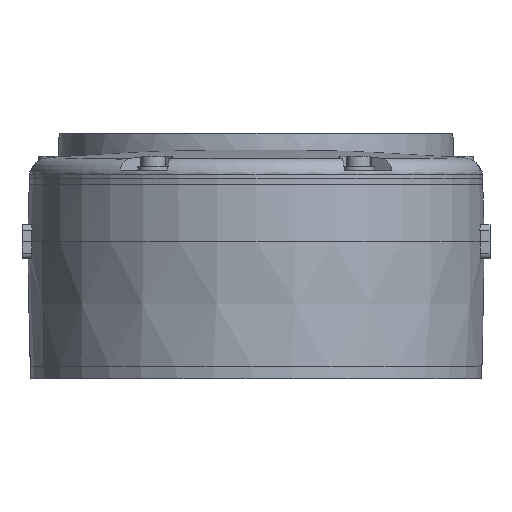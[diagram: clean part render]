
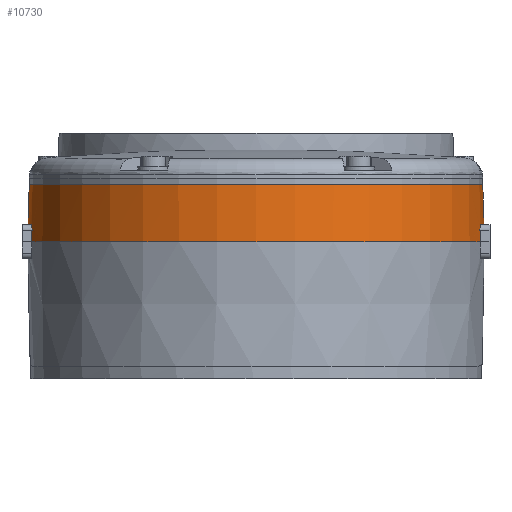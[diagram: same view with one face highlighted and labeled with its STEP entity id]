
A CAD part, left-side view. The second image highlights one B-rep face of the part: STEP entity #10730.
In plain terms, the highlighted conical face has half-angle 1.5 degrees and reference radius 80 mm.
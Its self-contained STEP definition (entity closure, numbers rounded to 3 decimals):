
#198 = CARTESIAN_POINT ( 'NONE',  ( -14.673, -78.512, 245.424 ) ) ;
#430 = CARTESIAN_POINT ( 'NONE',  ( 0., 79.476, 260.5 ) ) ;
#629 = ORIENTED_EDGE ( 'NONE', *, *, #7806, .F. ) ;
#685 = VERTEX_POINT ( 'NONE', #3980 ) ;
#687 = B_SPLINE_CURVE_WITH_KNOTS ( 'NONE', 3,
 ( #4220, #2864, #12781, #1459, #2908, #4330, #12961, #7082, #16956, #5593, #10047, #1407, #14185, #12847 ),
 .UNSPECIFIED., .F., .F.,
 ( 4, 2, 2, 2, 2, 2, 4 ),
 ( 0., 0., 0.001, 0.001, 0.002, 0.002, 0.003 ),
 .UNSPECIFIED. ) ;
#801 = EDGE_CURVE ( 'NONE', #1649, #16539, #2175, .T. ) ;
#885 = ORIENTED_EDGE ( 'NONE', *, *, #16910, .T. ) ;
#1019 = EDGE_CURVE ( 'NONE', #7480, #11701, #7828, .T. ) ;
#1048 = EDGE_CURVE ( 'NONE', #1719, #18267, #5381, .T. ) ;
#1407 = CARTESIAN_POINT ( 'NONE',  ( -13.409, 78.711, 246.449 ) ) ;
#1459 = CARTESIAN_POINT ( 'NONE',  ( -14.818, 78.494, 245.062 ) ) ;
#1649 = VERTEX_POINT ( 'NONE', #18384 ) ;
#1711 = CIRCLE ( 'NONE', #9278, 79.843 ) ;
#1719 = VERTEX_POINT ( 'NONE', #9101 ) ;
#2175 = B_SPLINE_CURVE_WITH_KNOTS ( 'NONE', 3,
 ( #5525, #11211, #16838, #18322 ),
 .UNSPECIFIED., .F., .F.,
 ( 4, 4 ),
 ( 0.023, 0.027 ),
 .UNSPECIFIED. ) ;
#2392 = CARTESIAN_POINT ( 'NONE',  ( 0., 0., 240.5 ) ) ;
#2809 = EDGE_CURVE ( 'NONE', #17534, #3066, #14628, .T. ) ;
#2844 = CARTESIAN_POINT ( 'NONE',  ( -14.89, -78.491, 244.683 ) ) ;
#2864 = CARTESIAN_POINT ( 'NONE',  ( -14.89, 78.491, 244.683 ) ) ;
#2908 = CARTESIAN_POINT ( 'NONE',  ( -14.777, 78.498, 245.187 ) ) ;
#3066 = VERTEX_POINT ( 'NONE', #13947 ) ;
#3083 = CARTESIAN_POINT ( 'NONE',  ( -14.894, -78.493, 244.552 ) ) ;
#3412 = CARTESIAN_POINT ( 'NONE',  ( -14.463, -78.542, 245.748 ) ) ;
#3869 = DIRECTION ( 'NONE',  ( 0., 0., -1. ) ) ;
#3980 = CARTESIAN_POINT ( 'NONE',  ( -12.895, 78.795, 246.5 ) ) ;
#4220 = CARTESIAN_POINT ( 'NONE',  ( -14.894, 78.493, 244.552 ) ) ;
#4330 = CARTESIAN_POINT ( 'NONE',  ( -14.673, 78.512, 245.424 ) ) ;
#4575 = CARTESIAN_POINT ( 'NONE',  ( -12.895, -78.795, 246.5 ) ) ;
#4794 = CARTESIAN_POINT ( 'NONE',  ( 0., 0., 240.5 ) ) ;
#4848 = EDGE_CURVE ( 'NONE', #17534, #1719, #10955, .T. ) ;
#5036 = VERTEX_POINT ( 'NONE', #12148 ) ;
#5114 = CARTESIAN_POINT ( 'NONE',  ( -14.894, -78.493, 244.552 ) ) ;
#5303 = DIRECTION ( 'NONE',  ( 0., -1., 0. ) ) ;
#5308 = CARTESIAN_POINT ( 'NONE',  ( -15., 78.581, 240.5 ) ) ;
#5381 = CIRCLE ( 'NONE', #6958, 79.843 ) ;
#5398 = DIRECTION ( 'NONE',  ( 0., 0.026, -1. ) ) ;
#5525 = CARTESIAN_POINT ( 'NONE',  ( -14.894, 78.493, 244.552 ) ) ;
#5593 = CARTESIAN_POINT ( 'NONE',  ( -14.102, 78.598, 246.115 ) ) ;
#6024 = VECTOR ( 'NONE', #5398, 1000. ) ;
#6163 = CARTESIAN_POINT ( 'NONE',  ( -13.152, -78.753, 246.5 ) ) ;
#6633 = CIRCLE ( 'NONE', #8812, 80. ) ;
#6958 = AXIS2_PLACEMENT_3D ( 'NONE', #10264, #10333, #11683 ) ;
#7025 = CARTESIAN_POINT ( 'NONE',  ( -14.818, -78.494, 245.062 ) ) ;
#7082 = CARTESIAN_POINT ( 'NONE',  ( -14.463, 78.542, 245.748 ) ) ;
#7200 = AXIS2_PLACEMENT_3D ( 'NONE', #17396, #11781, #16006 ) ;
#7480 = VERTEX_POINT ( 'NONE', #15397 ) ;
#7599 = DIRECTION ( 'NONE',  ( 0., -1., 0. ) ) ;
#7806 = EDGE_CURVE ( 'NONE', #1649, #685, #687, .T. ) ;
#7828 = CIRCLE ( 'NONE', #7200, 79.476 ) ;
#7959 = DIRECTION ( 'NONE',  ( 0., 1., 0. ) ) ;
#8021 = DIRECTION ( 'NONE',  ( 0., 0., -1. ) ) ;
#8042 = CARTESIAN_POINT ( 'NONE',  ( -14.965, -78.552, 241.851 ) ) ;
#8079 = CONICAL_SURFACE ( 'NONE', #9928, 80., 0.026 ) ;
#8434 = EDGE_CURVE ( 'NONE', #7480, #18267, #9880, .T. ) ;
#8549 = CARTESIAN_POINT ( 'NONE',  ( 0., -80., 240.5 ) ) ;
#8812 = AXIS2_PLACEMENT_3D ( 'NONE', #4794, #15069, #7599 ) ;
#8937 = CARTESIAN_POINT ( 'NONE',  ( -13.881, -78.634, 246.258 ) ) ;
#9101 = CARTESIAN_POINT ( 'NONE',  ( -12.895, -78.795, 246.5 ) ) ;
#9278 = AXIS2_PLACEMENT_3D ( 'NONE', #13641, #8021, #7959 ) ;
#9349 = ORIENTED_EDGE ( 'NONE', *, *, #15508, .F. ) ;
#9851 = FACE_OUTER_BOUND ( 'NONE', #17944, .T. ) ;
#9880 = LINE ( 'NONE', #8549, #14072 ) ;
#9928 = AXIS2_PLACEMENT_3D ( 'NONE', #2392, #3869, #5303 ) ;
#9974 = DIRECTION ( 'NONE',  ( 0., -0.026, -1. ) ) ;
#10047 = CARTESIAN_POINT ( 'NONE',  ( -13.881, 78.634, 246.258 ) ) ;
#10264 = CARTESIAN_POINT ( 'NONE',  ( 0., 0., 246.5 ) ) ;
#10333 = DIRECTION ( 'NONE',  ( 0., 0., 1. ) ) ;
#10623 = ORIENTED_EDGE ( 'NONE', *, *, #8434, .F. ) ;
#10730 = ADVANCED_FACE ( 'NONE', ( #9851 ), #8079, .T. ) ;
#10886 = ORIENTED_EDGE ( 'NONE', *, *, #2809, .F. ) ;
#10955 = B_SPLINE_CURVE_WITH_KNOTS ( 'NONE', 3,
 ( #12655, #2844, #17165, #7025, #14985, #198, #13038, #3412, #13331, #14546, #8937, #13087, #6163, #4575 ),
 .UNSPECIFIED., .F., .F.,
 ( 4, 2, 2, 2, 2, 2, 4 ),
 ( 0., 0., 0.001, 0.001, 0.002, 0.002, 0.003 ),
 .UNSPECIFIED. ) ;
#11211 = CARTESIAN_POINT ( 'NONE',  ( -14.929, 78.523, 243.201 ) ) ;
#11434 = CARTESIAN_POINT ( 'NONE',  ( 0., -79.843, 246.5 ) ) ;
#11683 = DIRECTION ( 'NONE',  ( 0., -1., 0. ) ) ;
#11701 = VERTEX_POINT ( 'NONE', #430 ) ;
#11781 = DIRECTION ( 'NONE',  ( 0., 0., -1. ) ) ;
#12148 = CARTESIAN_POINT ( 'NONE',  ( 0., 79.843, 246.5 ) ) ;
#12655 = CARTESIAN_POINT ( 'NONE',  ( -14.894, -78.493, 244.552 ) ) ;
#12781 = CARTESIAN_POINT ( 'NONE',  ( -14.874, 78.49, 244.811 ) ) ;
#12847 = CARTESIAN_POINT ( 'NONE',  ( -12.895, 78.795, 246.5 ) ) ;
#12961 = CARTESIAN_POINT ( 'NONE',  ( -14.61, 78.521, 245.536 ) ) ;
#13038 = CARTESIAN_POINT ( 'NONE',  ( -14.61, -78.521, 245.536 ) ) ;
#13087 = CARTESIAN_POINT ( 'NONE',  ( -13.409, -78.711, 246.449 ) ) ;
#13331 = CARTESIAN_POINT ( 'NONE',  ( -14.378, -78.555, 245.847 ) ) ;
#13340 = ORIENTED_EDGE ( 'NONE', *, *, #801, .T. ) ;
#13492 = ORIENTED_EDGE ( 'NONE', *, *, #13537, .T. ) ;
#13537 = EDGE_CURVE ( 'NONE', #11701, #5036, #14867, .T. ) ;
#13641 = CARTESIAN_POINT ( 'NONE',  ( 0., 0., 246.5 ) ) ;
#13947 = CARTESIAN_POINT ( 'NONE',  ( -15., -78.581, 240.5 ) ) ;
#14072 = VECTOR ( 'NONE', #9974, 1000. ) ;
#14185 = CARTESIAN_POINT ( 'NONE',  ( -13.152, 78.753, 246.5 ) ) ;
#14546 = CARTESIAN_POINT ( 'NONE',  ( -14.102, -78.598, 246.115 ) ) ;
#14628 = B_SPLINE_CURVE_WITH_KNOTS ( 'NONE', 3,
 ( #5114, #16478, #8042, #17925 ),
 .UNSPECIFIED., .F., .F.,
 ( 4, 4 ),
 ( 0.023, 0.027 ),
 .UNSPECIFIED. ) ;
#14867 = LINE ( 'NONE', #18387, #6024 ) ;
#14985 = CARTESIAN_POINT ( 'NONE',  ( -14.777, -78.498, 245.187 ) ) ;
#15069 = DIRECTION ( 'NONE',  ( 0., 0., 1. ) ) ;
#15397 = CARTESIAN_POINT ( 'NONE',  ( 0., -79.476, 260.5 ) ) ;
#15508 = EDGE_CURVE ( 'NONE', #685, #5036, #1711, .T. ) ;
#15599 = ORIENTED_EDGE ( 'NONE', *, *, #1048, .T. ) ;
#15827 = ORIENTED_EDGE ( 'NONE', *, *, #1019, .T. ) ;
#16006 = DIRECTION ( 'NONE',  ( 0., 1., 0. ) ) ;
#16146 = ORIENTED_EDGE ( 'NONE', *, *, #4848, .T. ) ;
#16478 = CARTESIAN_POINT ( 'NONE',  ( -14.929, -78.523, 243.201 ) ) ;
#16539 = VERTEX_POINT ( 'NONE', #5308 ) ;
#16838 = CARTESIAN_POINT ( 'NONE',  ( -14.965, 78.552, 241.851 ) ) ;
#16910 = EDGE_CURVE ( 'NONE', #16539, #3066, #6633, .T. ) ;
#16956 = CARTESIAN_POINT ( 'NONE',  ( -14.378, 78.555, 245.847 ) ) ;
#17165 = CARTESIAN_POINT ( 'NONE',  ( -14.874, -78.49, 244.811 ) ) ;
#17396 = CARTESIAN_POINT ( 'NONE',  ( 0., 0., 260.5 ) ) ;
#17534 = VERTEX_POINT ( 'NONE', #3083 ) ;
#17925 = CARTESIAN_POINT ( 'NONE',  ( -15., -78.581, 240.5 ) ) ;
#17944 = EDGE_LOOP ( 'NONE', ( #15827, #13492, #9349, #629, #13340, #885, #10886, #16146, #15599, #10623 ) ) ;
#18267 = VERTEX_POINT ( 'NONE', #11434 ) ;
#18322 = CARTESIAN_POINT ( 'NONE',  ( -15., 78.581, 240.5 ) ) ;
#18384 = CARTESIAN_POINT ( 'NONE',  ( -14.894, 78.493, 244.552 ) ) ;
#18387 = CARTESIAN_POINT ( 'NONE',  ( 0., 80., 240.5 ) ) ;
